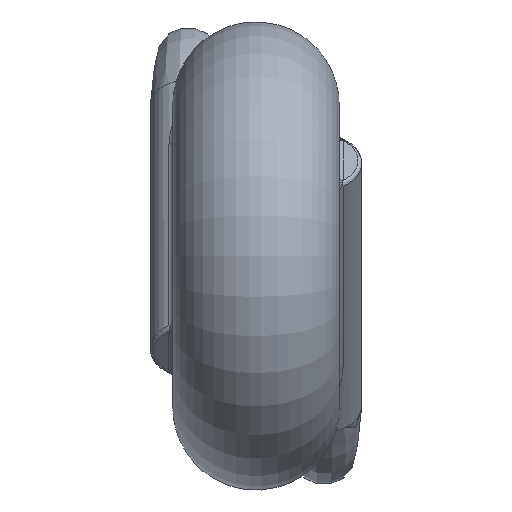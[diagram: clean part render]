
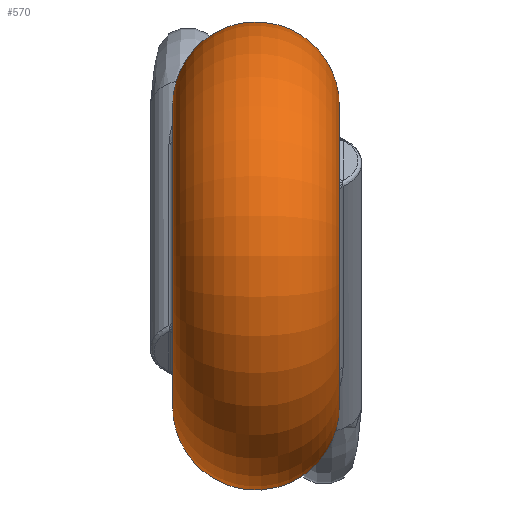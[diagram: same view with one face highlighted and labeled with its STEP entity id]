
A CAD part, left-side view. The second image highlights one B-rep face of the part: STEP entity #570.
In plain terms, the highlighted toroidal (fillet/blend) face has major radius 3.995 mm and minor radius 2.205 mm.
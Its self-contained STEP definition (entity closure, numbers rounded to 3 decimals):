
#20=TOROIDAL_SURFACE('',#632,3.995,2.205);
#81=B_SPLINE_CURVE_WITH_KNOTS('',3,(#1632,#1633,#1634,#1635,#1636,#1637,
#1638,#1639,#1640,#1641,#1642,#1643,#1644,#1645,#1646),.UNSPECIFIED.,.F.,
 .F.,(4,1,1,1,1,1,1,1,1,1,1,1,4),(-0.786,-0.73,
-0.674,-0.561,-0.505,-0.449,
-0.393,-0.337,-0.281,-0.225,
-0.112,-0.056,0.),.UNSPECIFIED.);
#82=B_SPLINE_CURVE_WITH_KNOTS('',3,(#1652,#1653,#1654,#1655,#1656,#1657,
#1658,#1659,#1660,#1661,#1662,#1663,#1664,#1665,#1666,#1667),
 .UNSPECIFIED.,.F.,.F.,(4,1,1,1,1,1,1,1,1,1,1,1,1,4),(-0.786,
-0.73,-0.674,-0.561,-0.505,
-0.449,-0.393,-0.337,-0.281,
-0.225,-0.168,-0.112,-0.056,
0.),.UNSPECIFIED.);
#97=FACE_BOUND('',#171,.T.);
#129=FACE_OUTER_BOUND('',#170,.T.);
#170=EDGE_LOOP('',(#453,#454));
#171=EDGE_LOOP('',(#455,#456));
#215=CIRCLE('',#633,3.995);
#216=CIRCLE('',#634,3.995);
#259=VERTEX_POINT('',#1552);
#260=VERTEX_POINT('',#1630);
#261=VERTEX_POINT('',#1650);
#262=VERTEX_POINT('',#1651);
#330=EDGE_CURVE('',#260,#259,#81,.T.);
#332=EDGE_CURVE('',#261,#262,#82,.T.);
#333=EDGE_CURVE('',#261,#262,#215,.T.);
#334=EDGE_CURVE('',#260,#259,#216,.T.);
#453=ORIENTED_EDGE('',*,*,#332,.T.);
#454=ORIENTED_EDGE('',*,*,#333,.F.);
#455=ORIENTED_EDGE('',*,*,#330,.T.);
#456=ORIENTED_EDGE('',*,*,#334,.F.);
#570=ADVANCED_FACE('',(#129,#97),#20,.T.);
#632=AXIS2_PLACEMENT_3D('',#1649,#759,#760);
#633=AXIS2_PLACEMENT_3D('',#1668,#761,#762);
#634=AXIS2_PLACEMENT_3D('',#1669,#763,#764);
#759=DIRECTION('center_axis',(0.,1.,0.));
#760=DIRECTION('ref_axis',(1.,0.,0.));
#761=DIRECTION('center_axis',(0.,-1.,0.));
#762=DIRECTION('ref_axis',(-1.,0.,0.));
#763=DIRECTION('center_axis',(0.,1.,0.));
#764=DIRECTION('ref_axis',(-1.,0.,0.));
#1552=CARTESIAN_POINT('',(2.555,3.6,3.071));
#1630=CARTESIAN_POINT('',(3.761,3.6,1.346));
#1632=CARTESIAN_POINT('Ctrl Pts',(3.761,3.6,1.346));
#1633=CARTESIAN_POINT('Ctrl Pts',(3.881,3.6,1.473));
#1634=CARTESIAN_POINT('Ctrl Pts',(4.134,3.566,1.711));
#1635=CARTESIAN_POINT('Ctrl Pts',(4.661,3.35,2.103));
#1636=CARTESIAN_POINT('Ctrl Pts',(5.099,2.909,2.451));
#1637=CARTESIAN_POINT('Ctrl Pts',(5.22,2.389,2.92));
#1638=CARTESIAN_POINT('Ctrl Pts',(5.114,2.062,3.34));
#1639=CARTESIAN_POINT('Ctrl Pts',(4.834,1.907,3.798));
#1640=CARTESIAN_POINT('Ctrl Pts',(4.457,1.995,4.205));
#1641=CARTESIAN_POINT('Ctrl Pts',(4.066,2.307,4.439));
#1642=CARTESIAN_POINT('Ctrl Pts',(3.613,2.861,4.414));
#1643=CARTESIAN_POINT('Ctrl Pts',(3.275,3.326,3.982));
#1644=CARTESIAN_POINT('Ctrl Pts',(2.903,3.558,3.452));
#1645=CARTESIAN_POINT('Ctrl Pts',(2.678,3.6,3.191));
#1646=CARTESIAN_POINT('Ctrl Pts',(2.555,3.6,3.071));
#1649=CARTESIAN_POINT('Origin',(0.,1.395,0.));
#1650=CARTESIAN_POINT('',(3.761,-0.81,-1.346));
#1651=CARTESIAN_POINT('',(2.555,-0.81,-3.071));
#1652=CARTESIAN_POINT('Ctrl Pts',(3.761,-0.81,-1.346));
#1653=CARTESIAN_POINT('Ctrl Pts',(3.881,-0.81,-1.473));
#1654=CARTESIAN_POINT('Ctrl Pts',(4.134,-0.776,-1.711));
#1655=CARTESIAN_POINT('Ctrl Pts',(4.661,-0.56,-2.103));
#1656=CARTESIAN_POINT('Ctrl Pts',(5.099,-0.119,-2.451));
#1657=CARTESIAN_POINT('Ctrl Pts',(5.22,0.401,-2.92));
#1658=CARTESIAN_POINT('Ctrl Pts',(5.114,0.728,-3.34));
#1659=CARTESIAN_POINT('Ctrl Pts',(4.834,0.883,-3.798));
#1660=CARTESIAN_POINT('Ctrl Pts',(4.457,0.795,-4.204));
#1661=CARTESIAN_POINT('Ctrl Pts',(4.066,0.483,-4.439));
#1662=CARTESIAN_POINT('Ctrl Pts',(3.726,0.069,-4.421));
#1663=CARTESIAN_POINT('Ctrl Pts',(3.443,-0.307,-4.196));
#1664=CARTESIAN_POINT('Ctrl Pts',(3.182,-0.593,-3.85));
#1665=CARTESIAN_POINT('Ctrl Pts',(2.902,-0.77,-3.451));
#1666=CARTESIAN_POINT('Ctrl Pts',(2.678,-0.81,-3.191));
#1667=CARTESIAN_POINT('Ctrl Pts',(2.555,-0.81,-3.071));
#1668=CARTESIAN_POINT('Origin',(0.,-0.81,0.));
#1669=CARTESIAN_POINT('Origin',(0.,3.6,0.));
